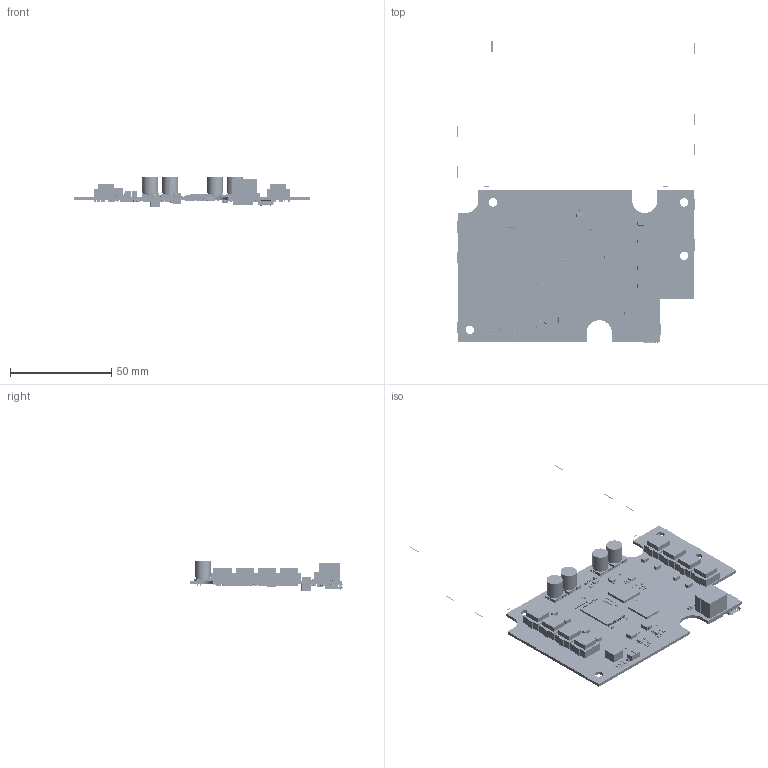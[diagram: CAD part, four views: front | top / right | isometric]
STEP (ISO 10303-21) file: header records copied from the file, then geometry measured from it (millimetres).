
FILE_DESCRIPTION(('STEP AP214'),'1');
FILE_NAME('AI2MAX_AMP_A113X_REV10_210616-001_3D.step','2021-06-17T08:40:09',(' '),(' '),'Spatial InterOp 3D','XD3DPlugin XRACreate',' ');
FILE_SCHEMA(('automotive_design'));
Length unit declared in the file: millimetre
Products named in the file (388): Submodel-D:\NT153\Artwork\ALT\AI2MAX_AMP_A113X\AI2MAX_AMP_A113X_REV_100_210616\1.PCB\AI2MAX_AMP_A113X_REV10_210616-001_3D_PCB\3D\Input_S\SOP23-6P_H1_3.xtd; SOP23-6P_H1_3; Submodel-SOT23-6P_TMI3252S_part_simplified_SOT23-6P_TMI3252S; DesignRootModel; Submodel-D:\NT153\Artwork\ALT\AI2MAX_AMP_A113X\AI2MAX_AMP_A113X_REV_100_210616\1.PCB\AI2MAX_AMP_A113X_REV10_210616-001_3D_PCB\3D\Input_S\SOT583_MP2330C_MNP.xtd; SOT583_MP2330C_MNP; Submodel-SOT583_MP2338_part_simplified_SOT583_MP2338; Submodel-D:\NT153\Artwork\ALT\AI2MAX_AMP_A113X\AI2MAX_AMP_A113X_REV_100_210616\1.PCB\AI2MAX_AMP_A113X_REV10_210616-001_3D_PCB\3D\Input_S\CAP3216_H1_8.xtd; CAP3216_H1_8; Submodel-C3216_part_simplified_C3216; Submodel-D:\NT153\Artwork\ALT\AI2MAX_AMP_A113X\AI2MAX_AMP_A113X_REV_100_210616\1.PCB\AI2MAX_AMP_A113X_REV10_210616-001_3D_PCB\3D\Input_S\CAP3225_H2_9.xtd; CAP3225_H2_9; Submodel-C3225_part_simplified_C3225; Submodel-D:\NT153\Artwork\ALT\AI2MAX_AMP_A113X\AI2MAX_AMP_A113X_REV_100_210616\1.PCB\AI2MAX_AMP_A113X_REV10_210616-001_3D_PCB\3D\Input_S\10118192C.xtd; 10118192C; Submodel-MICRO_USB_10118192_part_simplified_MICRO_USB_10118192; Submodel-D:\NT153\Artwork\ALT\AI2MAX_AMP_A113X\AI2MAX_AMP_A113X_REV_100_210616\1.PCB\AI2MAX_AMP_A113X_REV10_210616-001_3D_PCB\3D\Input_S\CAP1005_H0_7.xtd; CAP1005_H0_7; Submodel-C1005_part_simplified_C1005; Submodel-D:\NT153\Artwork\ALT\AI2MAX_AMP_A113X\AI2MAX_AMP_A113X_REV_100_210616\1.PCB\AI2MAX_AMP_A113X_REV10_210616-001_3D_PCB\3D\Input_S\CAP1608_H1_1.xtd; CAP1608_H1_1; Submodel-C1608_part_simplified_C1608; Submodel-D:\NT153\Artwork\ALT\AI2MAX_AMP_A113X\AI2MAX_AMP_A113X_REV_100_210616\1.PCB\AI2MAX_AMP_A113X_REV10_210616-001_3D_PCB\3D\Input_S\TR_SOT23_LRT_H1_4.xtd; TR_SOT23_LRT_H1_4; Submodel-SOT23_LRT_MMBT3904_part_simplified_SOT23_LRT_MMBT3904; Submodel-D:\NT153\Artwork\ALT\AI2MAX_AMP_A113X\AI2MAX_AMP_A113X_REV_100_210616\1.PCB\AI2MAX_AMP_A113X_REV10_210616-001_3D_PCB\3D\Input_S\RES1005.xtd; RES1005; Submodel-R1005_part_simplified_R1005; Submodel-D:\NT153\Artwork\ALT\AI2MAX_AMP_A113X\AI2MAX_AMP_A113X_REV_100_210616\1.PCB\AI2MAX_AMP_A113X_REV10_210616-001_3D_PCB\3D\Input_S\SOT23-5P_H1_45_TPS7A0530PDBVR.xtd; SOT23-5P_H1_45_TPS7A0530PDBVR; Submodel-SOT23-5_TMI6050_part_simplified_SOT23-5_TMI6050; Submodel-D:\NT153\Artwork\ALT\AI2MAX_AMP_A113X\AI2MAX_AMP_A113X_REV_100_210616\1.PCB\AI2MAX_AMP_A113X_REV10_210616-001_3D_PCB\3D\Input_S\ALCAP_8PI_H10.xtd; ALCAP_8PI_H10; Submodel-ECAP_8PI_H10_part_simplified_ECAP_8PI_H10; Submodel-D:\NT153\Artwork\ALT\AI2MAX_AMP_A113X\AI2MAX_AMP_A113X_REV_100_210616\1.PCB\AI2MAX_AMP_A113X_REV10_210616-001_3D_PCB\3D\Input_S\RES1608.xtd; RES1608; Submodel-R1608_part_simplified_R1608; uid__540930; Submodel-noModelForPart_C0402_723086758; placementOutline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
Assembly tree (836 placements, depth 5):
  ProductRootModel
    DesignRootModel
      Submodel-SOT23-6P_TMI3252S_part_simplified_SOT23-6P_TMI3252S  x4
        Submodel-D:\NT153\Artwork\ALT\AI2MAX_AMP_A113X\AI2MAX_AMP_A113X_REV_100_210616\1.PCB\AI2MAX_AMP_A113X_REV10_210616-001_3D_PCB\3D\Input_S\SOP23-6P_H1_3.xtd
          SOP23-6P_H1_3
      Submodel-SOT583_MP2338_part_simplified_SOT583_MP2338
        Submodel-D:\NT153\Artwork\ALT\AI2MAX_AMP_A113X\AI2MAX_AMP_A113X_REV_100_210616\1.PCB\AI2MAX_AMP_A113X_REV10_210616-001_3D_PCB\3D\Input_S\SOT583_MP2330C_MNP.xtd
          SOT583_MP2330C_MNP
      Submodel-C3216_part_simplified_C3216  x8
        Submodel-D:\NT153\Artwork\ALT\AI2MAX_AMP_A113X\AI2MAX_AMP_A113X_REV_100_210616\1.PCB\AI2MAX_AMP_A113X_REV10_210616-001_3D_PCB\3D\Input_S\CAP3216_H1_8.xtd
          CAP3216_H1_8
      Submodel-C3225_part_simplified_C3225  x2
        Submodel-D:\NT153\Artwork\ALT\AI2MAX_AMP_A113X\AI2MAX_AMP_A113X_REV_100_210616\1.PCB\AI2MAX_AMP_A113X_REV10_210616-001_3D_PCB\3D\Input_S\CAP3225_H2_9.xtd
          CAP3225_H2_9
      Submodel-MICRO_USB_10118192_part_simplified_MICRO_USB_10118192
        Submodel-D:\NT153\Artwork\ALT\AI2MAX_AMP_A113X\AI2MAX_AMP_A113X_REV_100_210616\1.PCB\AI2MAX_AMP_A113X_REV10_210616-001_3D_PCB\3D\Input_S\10118192C.xtd
          10118192C
      Submodel-C1005_part_simplified_C1005  x91
        Submodel-D:\NT153\Artwork\ALT\AI2MAX_AMP_A113X\AI2MAX_AMP_A113X_REV_100_210616\1.PCB\AI2MAX_AMP_A113X_REV10_210616-001_3D_PCB\3D\Input_S\CAP1005_H0_7.xtd
          CAP1005_H0_7
      Submodel-C1608_part_simplified_C1608  x64
        Submodel-D:\NT153\Artwork\ALT\AI2MAX_AMP_A113X\AI2MAX_AMP_A113X_REV_100_210616\1.PCB\AI2MAX_AMP_A113X_REV10_210616-001_3D_PCB\3D\Input_S\CAP1608_H1_1.xtd
          CAP1608_H1_1
      Submodel-SOT23_LRT_MMBT3904_part_simplified_SOT23_LRT_MMBT3904  x5
        Submodel-D:\NT153\Artwork\ALT\AI2MAX_AMP_A113X\AI2MAX_AMP_A113X_REV_100_210616\1.PCB\AI2MAX_AMP_A113X_REV10_210616-001_3D_PCB\3D\Input_S\TR_SOT23_LRT_H1_4.xtd
          TR_SOT23_LRT_H1_4
      Submodel-R1005_part_simplified_R1005  x145
        Submodel-D:\NT153\Artwork\ALT\AI2MAX_AMP_A113X\AI2MAX_AMP_A113X_REV_100_210616\1.PCB\AI2MAX_AMP_A113X_REV10_210616-001_3D_PCB\3D\Input_S\RES1005.xtd
          RES1005
      Submodel-SOT23-5_TMI6050_part_simplified_SOT23-5_TMI6050  x2
        Submodel-D:\NT153\Artwork\ALT\AI2MAX_AMP_A113X\AI2MAX_AMP_A113X_REV_100_210616\1.PCB\AI2MAX_AMP_A113X_REV10_210616-001_3D_PCB\3D\Input_S\SOT23-5P_H1_45_TPS7A0530PDBVR.xtd
          SOT23-5P_H1_45_TPS7A0530PDBVR
      Submodel-ECAP_8PI_H10_part_simplified_ECAP_8PI_H10  x4
        Submodel-D:\NT153\Artwork\ALT\AI2MAX_AMP_A113X\AI2MAX_AMP_A113X_REV_100_210616\1.PCB\AI2MAX_AMP_A113X_REV10_210616-001_3D_PCB\3D\Input_S\ALCAP_8PI_H10.xtd
          ALCAP_8PI_H10
      Submodel-R1608_part_simplified_R1608  x8
        Submodel-D:\NT153\Artwork\ALT\AI2MAX_AMP_A113X\AI2MAX_AMP_A113X_REV_100_210616\1.PCB\AI2MAX_AMP_A113X_REV10_210616-001_3D_PCB\3D\Input_S\RES1608.xtd
          RES1608
      uid__540930
      Submodel-C0402_723086758_part_C0402  x43
        Submodel-noModelForPart_C0402_723086758
          placementOutline
      Submodel-C0603_1062184454_part_C0603  x8
        Submodel-noModelForPart_C0603_1062184454
          placementOutline
      Submodel-FH41-15S-0_5SH_2081709580_part_FH41-15S-0_5SH
        Submodel-noModelForPart_FH41-15S-0_5SH_2081709580
          placementOutline
      Submodel-HDR_4P_3608428390_part_HDR_4P
        Submodel-noModelForPart_HDR_4P_3608428390
          placementOutline
      Submodel-SWPA8065S_2898944015_part_SWPA8065S  x8
        Submodel-noModelForPart_SWPA8065S_2898944015
          placementOutline
          placementOutline
          placementOutline
      Submodel-TSOP48_W20_MX30LF4G28AD-TI_2447690815_part_TSOP48_W20_MX30LF4G28AD-TI
        Submodel-noModelForPart_TSOP48_W20_MX30LF4G28AD-TI_2447690815
          placementOutline
          placementOutline
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Bounding box: 117.6 x 149.34 x 15.1 mm (x, y, z)
Volume: 26559.5 mm3; surface area: 35783.2 mm2
Topology: 1479 solids, 2111 shells, 20145 faces, 46647 edges, 27464 vertices
Faces by surface type: plane 9918, cylinder 7479, sphere 2636, bspline 108, torus 4
Full cylindrical faces by diameter (mm): 0.065 x1, 2 x1, 4.2 x4, 7 x4, 8 x4
Entity records: 158561 total; most frequent: CARTESIAN_POINT 24581, DIRECTION 19937, ORIENTED_EDGE 14948, EDGE_CURVE 9230, VERTEX_POINT 7140, LINE 6939, VECTOR 6939, AXIS2_PLACEMENT_3D 6499
